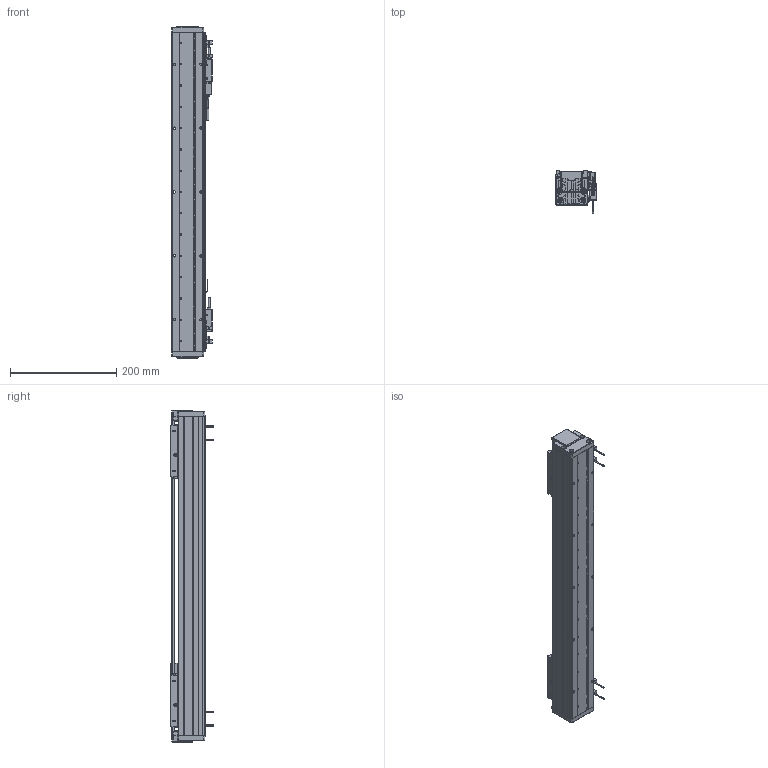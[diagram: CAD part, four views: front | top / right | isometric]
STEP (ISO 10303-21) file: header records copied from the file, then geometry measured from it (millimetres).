
FILE_DESCRIPTION (( 'STEP AP203' ), '1' );
FILE_NAME ('DA-A60-2-B1-T360-C010-0.2 眻盄萇儂.STEP', '2025-08-13T01:13:56', ( '' ), ( '' ), 'SwSTEP 2.0', 'SolidWorks 2019', '' );
FILE_SCHEMA (( 'CONFIG_CONTROL_DESIGN' ));
Length unit declared in the file: millimetre
Products named in the file (27): DA60-B1-HT-B-03 賑雄怢啣; 复件 纯铜油杯 6x6mm^AU60-V 滚珠滑台; AU60-L 菁釱絳寢; 葩璃 DA60-DMT-DTJ-00 黍杅芛盓殤^DA-A60-2-B1-T60-C010-0.2-N; 葩璃 鞠褒情蹟譫 M3^DA-A60-2-B1-T60-C010-0.2-N(GB_FASTENER_NUT_STNAB M3-C); 葩璃 PM-T45^DA-A60-2-B1-T60-C010-0.2-N; ｸｴｼ DA-A60-GYP-DMT-00 ｹ箏邵ﾐﾓｦﾆｬ^DA-A60-2-B1-T60-C010-0.2-N(ﾄｬﾈﾏ); 葩璃 AKM01-W030-TRL^DA-A60-2-B1-T60-C010-0.2-N; DA60-T-002-00  裔啣; DA60-YT-B1-HT-B-01 珨极趙賑雄怢啣; AU60-V 幗紩賑怢-1; DA-A60-2-B1-T360-C010-0.2 眻盄萇儂; 复件 DA60-B1-GT-00 滑块钢轨^DA60-YT-B1-HT-B-01 一体化滑动台板; 葩璃 DA60-DG-H-N-00 傷裔^DA-A60-2-B1-T60-C010-0.2-N; ｸｴｼ DA60-GYP-ZJ-01 ﾖﾐｼ荵箏邵ﾐﾓｦﾆｬ^DA-A60-2-B1-T60-C010-0.2-N(ﾄｬﾈﾏ); 复件 DA60-GT-T-00 底座钢轨^AU60-L 底座导轨; 复件 DA60-HC-XJ-01 中间缓冲橡胶^DA-A60-2-B1-T60-C010-0.2-N; 葩璃 DA60-XJ-00 砎蝶結輸^DA-A60-2-B1-T60-C010-0.2-N; IU-AU60-L-00 菁釱(600); AU60-V 幗紩賑怢; ｸｴｼ DA60-DMT-DTJ-ZJ-00 ﾖﾐｼ荼ﾁﾊﾍｷﾖｧｼﾜ^DA-A60-2-B1-T60-C010-0.2-N; DA60-YT-B1-HT-B-01 珨极趙賑雄怢啣-1; 葩璃 XD-U-02  棠掑喜^DA-A60-2-B1-T60-C010-0.2-N; 葩璃 PM-Y65^DA-A60-2-B1-T60-C010-0.2-N; ｸｴｼ BAKM01-W030-C1-TP-0.2 ﾖｱﾏﾟｵ扈巐ｯﾗﾓ^DA-A60-2-B1-T60-C010-0.2-N; 葩璃 DMT-010 1米m 0.2M^DA-A60-2-B1-T60-C010-0.2-N; 葩璃 DA60-HK-DP-01 結え^AU60-V 幗紩賑怢
Assembly tree (51 placements, depth 4):
  DA-A60-2-B1-T360-C010-0.2 眻盄萇儂
    AU60-L 菁釱絳寢
      IU-AU60-L-00 菁釱(600)
      复件 DA60-GT-T-00 底座钢轨^AU60-L 底座导轨  x2
    AU60-V 幗紩賑怢
      DA60-YT-B1-HT-B-01 珨极趙賑雄怢啣
        DA60-B1-HT-B-03 賑雄怢啣
        复件 DA60-B1-GT-00 滑块钢轨^DA60-YT-B1-HT-B-01 一体化滑动台板  x2
      葩璃 DA60-HK-DP-01 結え^AU60-V 幗紩賑怢  x2
      复件 纯铜油杯 6x6mm^AU60-V 滚珠滑台
    AU60-V 幗紩賑怢-1
      DA60-YT-B1-HT-B-01 珨极趙賑雄怢啣-1
        DA60-B1-HT-B-03 賑雄怢啣
        复件 DA60-B1-GT-00 滑块钢轨^DA60-YT-B1-HT-B-01 一体化滑动台板  x2
      葩璃 DA60-HK-DP-01 結え^AU60-V 幗紩賑怢  x2
      复件 纯铜油杯 6x6mm^AU60-V 滚珠滑台
    ｸｴｼ DA60-DMT-DTJ-ZJ-00 ﾖﾐｼ荼ﾁﾊﾍｷﾖｧｼﾜ^DA-A60-2-B1-T60-C010-0.2-N
    葩璃 PM-Y65^DA-A60-2-B1-T60-C010-0.2-N
    复件 DA60-HC-XJ-01 中间缓冲橡胶^DA-A60-2-B1-T60-C010-0.2-N  x2
    ｸｴｼ DA60-GYP-ZJ-01 ﾖﾐｼ荵箏邵ﾐﾓｦﾆｬ^DA-A60-2-B1-T60-C010-0.2-N(ﾄｬﾈﾏ)
    ｸｴｼ DA-A60-GYP-DMT-00 ｹ箏邵ﾐﾓｦﾆｬ^DA-A60-2-B1-T60-C010-0.2-N(ﾄｬﾈﾏ)  x2
    葩璃 DA60-DMT-DTJ-00 黍杅芛盓殤^DA-A60-2-B1-T60-C010-0.2-N
    葩璃 DMT-010 1米m 0.2M^DA-A60-2-B1-T60-C010-0.2-N  x2
    ｸｴｼ BAKM01-W030-C1-TP-0.2 ﾖｱﾏﾟｵ扈巐ｯﾗﾓ^DA-A60-2-B1-T60-C010-0.2-N  x2
    葩璃 DA60-XJ-00 砎蝶結輸^DA-A60-2-B1-T60-C010-0.2-N  x2
    葩璃 DA60-DG-H-N-00 傷裔^DA-A60-2-B1-T60-C010-0.2-N  x2
    DA60-T-002-00  裔啣
    葩璃 AKM01-W030-TRL^DA-A60-2-B1-T60-C010-0.2-N
    葩璃 PM-T45^DA-A60-2-B1-T60-C010-0.2-N  x4
    葩璃 XD-U-02  棠掑喜^DA-A60-2-B1-T60-C010-0.2-N
    葩璃 鞠褒情蹟譫 M3^DA-A60-2-B1-T60-C010-0.2-N(GB_FASTENER_NUT_STNAB M3-C)  x8
Bounding box: 76.95 x 80 x 624 mm (x, y, z)
Volume: 1480395 mm3; surface area: 537890.2 mm2
Topology: 57 solids, 61 shells, 3669 faces, 9313 edges, 5674 vertices
Faces by surface type: plane 1416, cylinder 1305, bspline 592, cone 342, torus 12, sphere 2
Entity records: 79883 total; most frequent: CARTESIAN_POINT 24573, ORIENTED_EDGE 11180, DIRECTION 10269, EDGE_CURVE 5590, AXIS2_PLACEMENT_3D 3568, VERTEX_POINT 3513, VECTOR 3133, LINE 3133
